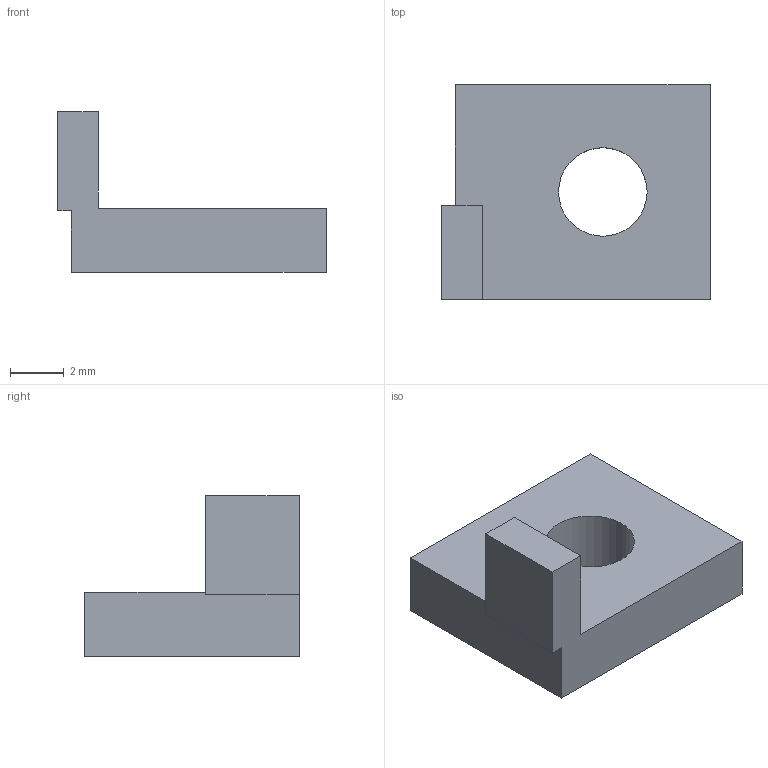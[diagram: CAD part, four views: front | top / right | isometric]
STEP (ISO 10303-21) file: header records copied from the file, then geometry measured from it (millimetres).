
FILE_DESCRIPTION(('Open CASCADE Model'),'2;1');
FILE_NAME('Open CASCADE Shape Model','2026-10-06T09:51:05',('Author'),( 'Open CASCADE'),'Open CASCADE STEP processor 7.9','Open CASCADE 7.9' ,'Unknown');
FILE_SCHEMA(('AUTOMOTIVE_DESIGN { 1 0 10303 214 1 1 1 1 }'));
Length unit declared in the file: millimetre
Products named in the file (1): Open CASCADE STEP translator 7.9 8
Bounding box: 10 x 8 x 6 mm (x, y, z)
Volume: 180.9 mm3; surface area: 283.4 mm2
Topology: 1 solids, 1 shells, 12 faces, 30 edges, 20 vertices
Faces by surface type: plane 11, cylinder 1
Full cylindrical faces by diameter (mm): 3.3 x1
Entity records: 752 total; most frequent: CARTESIAN_POINT 131, DIRECTION 110, LINE 78, VECTOR 78, ORIENTED_EDGE 60, PCURVE 60, DEFINITIONAL_REPRESENTATION 60, EDGE_CURVE 30
